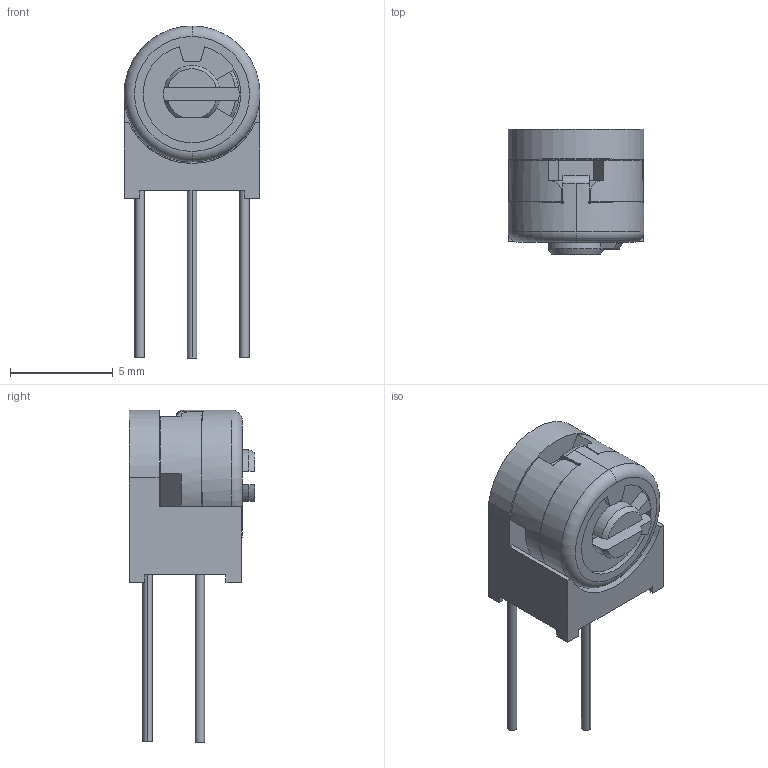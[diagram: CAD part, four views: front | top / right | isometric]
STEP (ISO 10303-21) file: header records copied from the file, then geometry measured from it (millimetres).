
FILE_DESCRIPTION((''),'2;1');
FILE_NAME('3329W-1','2023-05-17T15:15:16',('RICKB'),('Bourns, Inc.'),'CREO PARAMETRIC BY PTC INC, 2018050','CREO PARAMETRIC BY PTC INC, 2018050','');
FILE_SCHEMA(('AUTOMOTIVE_DESIGN { 1 0 10303 214 1 1 1 1 }'));
Length unit declared in the file: inch
Products named in the file (1): 3329W-1
Bounding box: 6.6 x 6.1 x 16.13 mm (x, y, z)
Volume: 209.4 mm3; surface area: 551.3 mm2
Topology: 1 solids, 1 shells, 172 faces, 500 edges, 328 vertices
Faces by surface type: plane 100, cylinder 55, torus 12, cone 5
Entity records: 7705 total; most frequent: CARTESIAN_POINT 1500, ORIENTED_EDGE 1000, DIRECTION 947, PRESENTATION_STYLE_ASSIGNMENT 501, STYLED_ITEM 501, CURVE_STYLE 500, EDGE_CURVE 500, AXIS2_PLACEMENT_3D 330
